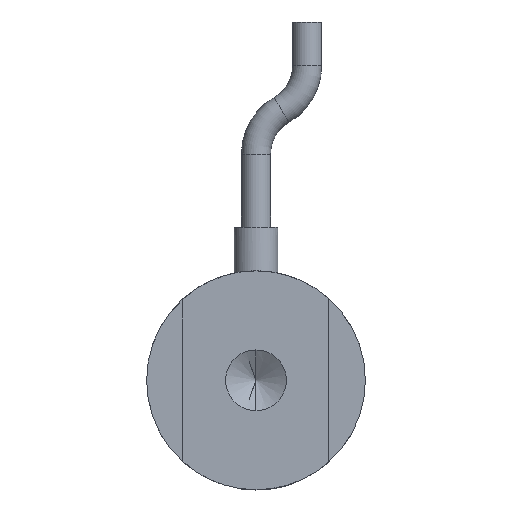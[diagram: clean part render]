
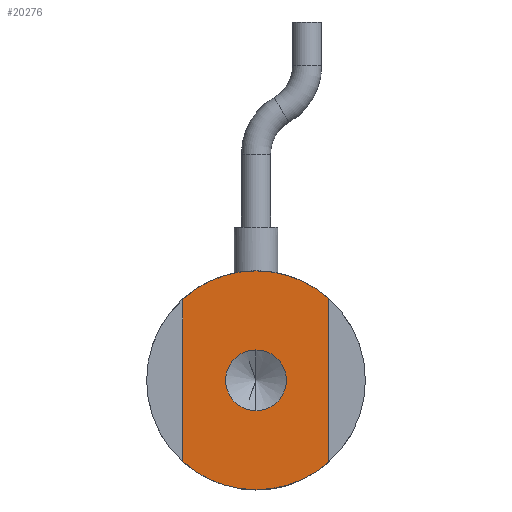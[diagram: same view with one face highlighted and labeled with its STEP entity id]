
A CAD part, front view. The second image highlights one B-rep face of the part: STEP entity #20276.
In plain terms, the highlighted planar face has unit normal (0, -1, 0).
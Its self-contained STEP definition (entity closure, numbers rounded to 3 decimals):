
#131 = CIRCLE ( 'NONE', #8460, 4.5 ) ;
#271 = CARTESIAN_POINT ( 'NONE',  ( 0.007, 4.688, 0.099 ) ) ;
#540 = CARTESIAN_POINT ( 'NONE',  ( 0.007, 4.688, 4.599 ) ) ;
#753 = DIRECTION ( 'NONE',  ( 0., -1., 0. ) ) ;
#1129 = CARTESIAN_POINT ( 'NONE',  ( 3., 4.688, -16.289 ) ) ;
#1292 = DIRECTION ( 'NONE',  ( 0., 1., 0. ) ) ;
#2811 = DIRECTION ( 'NONE',  ( 0., 1., 0. ) ) ;
#3017 = DIRECTION ( 'NONE',  ( 0., -1., 0. ) ) ;
#3445 = DIRECTION ( 'NONE',  ( 0., 0., 1. ) ) ;
#3452 = ORIENTED_EDGE ( 'NONE', *, *, #13192, .F. ) ;
#5034 = CIRCLE ( 'NONE', #17849, 4.5 ) ;
#6397 = LINE ( 'NONE', #40182, #39299 ) ;
#8238 = VERTEX_POINT ( 'NONE', #540 ) ;
#8460 = AXIS2_PLACEMENT_3D ( 'NONE', #21864, #2811, #25068 ) ;
#8953 = CIRCLE ( 'NONE', #9649, 1.25 ) ;
#9577 = DIRECTION ( 'NONE',  ( 0., 1., 0. ) ) ;
#9649 = AXIS2_PLACEMENT_3D ( 'NONE', #22070, #3017, #25280 ) ;
#9751 = CARTESIAN_POINT ( 'NONE',  ( 0.007, 4.688, -1.151 ) ) ;
#10613 = ORIENTED_EDGE ( 'NONE', *, *, #37875, .F. ) ;
#11644 = VERTEX_POINT ( 'NONE', #33504 ) ;
#12258 = ORIENTED_EDGE ( 'NONE', *, *, #29078, .F. ) ;
#12347 = FACE_OUTER_BOUND ( 'NONE', #28652, .T. ) ;
#12358 = ORIENTED_EDGE ( 'NONE', *, *, #40000, .T. ) ;
#13192 = EDGE_CURVE ( 'NONE', #27625, #34121, #34978, .T. ) ;
#13370 = AXIS2_PLACEMENT_3D ( 'NONE', #28612, #9577, #31821 ) ;
#13583 = CIRCLE ( 'NONE', #15907, 1.25 ) ;
#14301 = AXIS2_PLACEMENT_3D ( 'NONE', #16330, #38646, #19533 ) ;
#15245 = VECTOR ( 'NONE', #32986, 1000. ) ;
#15907 = AXIS2_PLACEMENT_3D ( 'NONE', #19813, #753, #22992 ) ;
#16133 = VERTEX_POINT ( 'NONE', #9751 ) ;
#16330 = CARTESIAN_POINT ( 'NONE',  ( 0.007, 4.688, 0.099 ) ) ;
#16744 = ORIENTED_EDGE ( 'NONE', *, *, #30894, .F. ) ;
#17847 = DIRECTION ( 'NONE',  ( 0., 0., -1. ) ) ;
#17849 = AXIS2_PLACEMENT_3D ( 'NONE', #271, #22503, #3445 ) ;
#18482 = CARTESIAN_POINT ( 'NONE',  ( 0.007, 4.688, -4.401 ) ) ;
#18722 = VERTEX_POINT ( 'NONE', #38082 ) ;
#18811 = AXIS2_PLACEMENT_3D ( 'NONE', #33015, #1292, #23533 ) ;
#19533 = DIRECTION ( 'NONE',  ( 0., 0., 1. ) ) ;
#19813 = CARTESIAN_POINT ( 'NONE',  ( 0.007, 4.688, 0.099 ) ) ;
#20039 = ORIENTED_EDGE ( 'NONE', *, *, #22801, .T. ) ;
#20276 = ADVANCED_FACE ( 'NONE', ( #22782, #12347 ), #20352, .F. ) ;
#20352 = PLANE ( 'NONE',  #18811 ) ;
#21196 = ORIENTED_EDGE ( 'NONE', *, *, #30098, .F. ) ;
#21864 = CARTESIAN_POINT ( 'NONE',  ( 0.007, 4.688, 0.099 ) ) ;
#22070 = CARTESIAN_POINT ( 'NONE',  ( 0.007, 4.688, 0.099 ) ) ;
#22503 = DIRECTION ( 'NONE',  ( 0., 1., 0. ) ) ;
#22703 = LINE ( 'NONE', #1129, #15245 ) ;
#22782 = FACE_BOUND ( 'NONE', #33283, .T. ) ;
#22801 = EDGE_CURVE ( 'NONE', #31216, #11644, #22703, .T. ) ;
#22992 = DIRECTION ( 'NONE',  ( 0., 0., -1. ) ) ;
#23533 = DIRECTION ( 'NONE',  ( 0., 0., 1. ) ) ;
#24192 = VERTEX_POINT ( 'NONE', #27099 ) ;
#25068 = DIRECTION ( 'NONE',  ( 0., 0., 1. ) ) ;
#25280 = DIRECTION ( 'NONE',  ( 0., 0., -1. ) ) ;
#27099 = CARTESIAN_POINT ( 'NONE',  ( -3., 4.688, 3.447 ) ) ;
#27625 = VERTEX_POINT ( 'NONE', #18482 ) ;
#28612 = CARTESIAN_POINT ( 'NONE',  ( 0.007, 4.688, 0.099 ) ) ;
#28652 = EDGE_LOOP ( 'NONE', ( #20039, #21196, #29989, #12358, #3452, #16744 ) ) ;
#29078 = EDGE_CURVE ( 'NONE', #16133, #18722, #13583, .T. ) ;
#29989 = ORIENTED_EDGE ( 'NONE', *, *, #35172, .F. ) ;
#30098 = EDGE_CURVE ( 'NONE', #8238, #11644, #32013, .T. ) ;
#30894 = EDGE_CURVE ( 'NONE', #31216, #27625, #131, .T. ) ;
#31216 = VERTEX_POINT ( 'NONE', #33523 ) ;
#31821 = DIRECTION ( 'NONE',  ( 0., 0., 1. ) ) ;
#32013 = CIRCLE ( 'NONE', #14301, 4.5 ) ;
#32986 = DIRECTION ( 'NONE',  ( 0., 0., 1. ) ) ;
#33015 = CARTESIAN_POINT ( 'NONE',  ( 0.007, 4.688, 0.099 ) ) ;
#33283 = EDGE_LOOP ( 'NONE', ( #12258, #10613 ) ) ;
#33504 = CARTESIAN_POINT ( 'NONE',  ( 3., 4.688, 3.459 ) ) ;
#33523 = CARTESIAN_POINT ( 'NONE',  ( 3., 4.688, -3.262 ) ) ;
#34121 = VERTEX_POINT ( 'NONE', #37746 ) ;
#34978 = CIRCLE ( 'NONE', #13370, 4.5 ) ;
#35172 = EDGE_CURVE ( 'NONE', #24192, #8238, #5034, .T. ) ;
#37746 = CARTESIAN_POINT ( 'NONE',  ( -3., 4.688, -3.249 ) ) ;
#37875 = EDGE_CURVE ( 'NONE', #18722, #16133, #8953, .T. ) ;
#38082 = CARTESIAN_POINT ( 'NONE',  ( 0.007, 4.688, 1.349 ) ) ;
#38646 = DIRECTION ( 'NONE',  ( 0., 1., 0. ) ) ;
#39299 = VECTOR ( 'NONE', #17847, 1000. ) ;
#40000 = EDGE_CURVE ( 'NONE', #24192, #34121, #6397, .T. ) ;
#40182 = CARTESIAN_POINT ( 'NONE',  ( -3., 4.688, -16.289 ) ) ;
